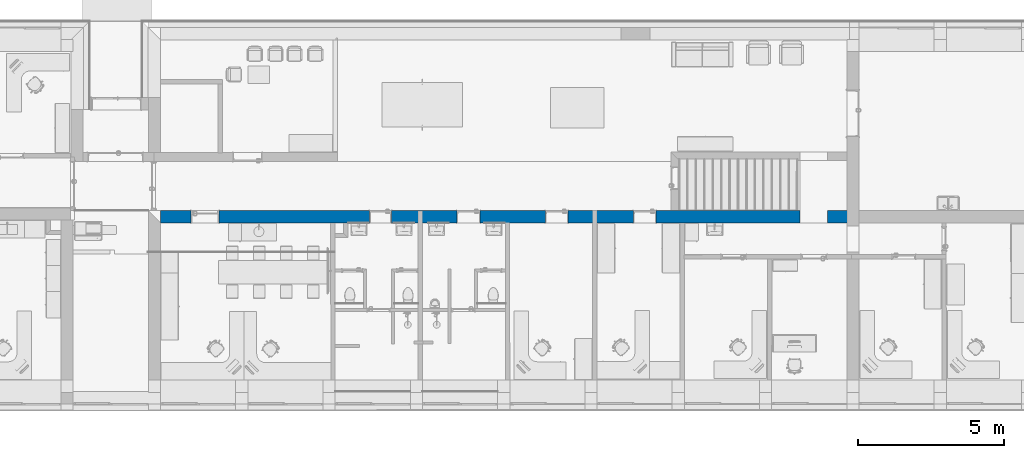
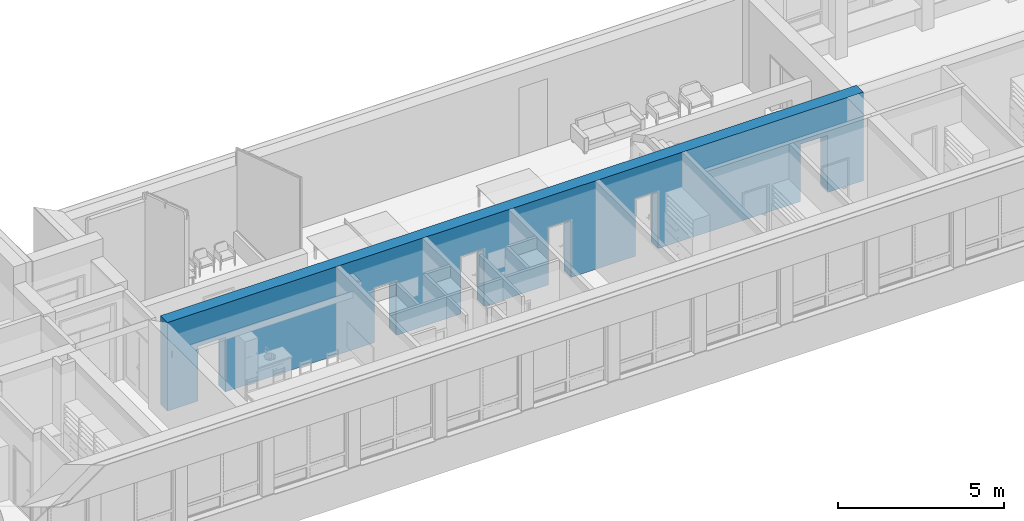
# One storey, part 44 of 194: 1 wall, 6 openings.
"""IFC2X3 building model written with IfcOpenShell, lengths in millimetres."""

from ifc_helpers import new_model, entity, si_unit, converted_unit, derived_unit, money_unit, direction, frame, origin_with_axes, origin_2d_with_axis, place, context, subcontext, project, spatial, polyline, rectangle, outline, extrude, boolean, clip, halfspace, faceted_brep, material, type_object, element, save


model = new_model("IFC2X3")

# Units and contexts
model_context = context("Model", 3, precision=1e-05, world=origin_with_axes(), true_north=direction((0.0, 1.0)))
body_context = subcontext(model_context, "Body", "Model", "MODEL_VIEW")
ifc_project = project(units=[si_unit("LENGTHUNIT", "METRE", prefix="MILLI"), si_unit("AREAUNIT", "SQUARE_METRE"), si_unit("VOLUMEUNIT", "CUBIC_METRE"), converted_unit("PLANEANGLEUNIT", "DEGREE", entity("IfcPlaneAngleMeasure", 0.0174532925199), si_unit("PLANEANGLEUNIT", "RADIAN"), dimensions=[0, 0, 0, 0, 0, 0, 0]), si_unit("SOLIDANGLEUNIT", "STERADIAN"), money_unit("EUR"), converted_unit("TIMEUNIT", "Year", entity("IfcTimeMeasure", 31556926.0), si_unit("TIMEUNIT", "SECOND"), dimensions=[0, 0, 1, 0, 0, 0, 0]), si_unit("MASSUNIT", "GRAM", prefix="KILO"), si_unit("THERMODYNAMICTEMPERATUREUNIT", "DEGREE_CELSIUS"), si_unit("LUMINOUSINTENSITYUNIT", "LUMEN"), si_unit("ENERGYUNIT", "JOULE", prefix="MEGA"), derived_unit("THERMALCONDUCTANCEUNIT", [(si_unit("POWERUNIT", "WATT"), 1), (si_unit("LENGTHUNIT", "METRE"), -1), (si_unit("THERMODYNAMICTEMPERATUREUNIT", "KELVIN"), -1)]), derived_unit("SPECIFICHEATCAPACITYUNIT", [(si_unit("ENERGYUNIT", "JOULE"), 1), (si_unit("MASSUNIT", "GRAM", prefix="KILO"), -1), (si_unit("THERMODYNAMICTEMPERATUREUNIT", "KELVIN"), -1)]), derived_unit("MASSDENSITYUNIT", [(si_unit("MASSUNIT", "GRAM", prefix="KILO"), 1), (si_unit("VOLUMEUNIT", "CUBIC_METRE"), -1)])], contexts=[model_context])

# Site, building, storey
site_placement = place(None, origin_with_axes())
site = spatial("IfcSite", under=ifc_project, at=site_placement, Name="Site", CompositionType="ELEMENT")
building_placement = place(site_placement, origin_with_axes())
building = spatial("IfcBuilding", under=site, at=building_placement, Name="Building", CompositionType="ELEMENT")
storey_placement = place(building_placement, frame((0.0, 0.0, 3000.0), z_axis=(0.0, 0.0, 1.0), x_axis=(1.0, 0.0, 0.0)))
storey = spatial("IfcBuildingStorey", under=building, at=storey_placement, Name="2 KORRUS", CompositionType="ELEMENT", Elevation=3000.0)

# Wall, openings
ifc_material = material(Name="Kivi -Ol.Olev Konstruktsioon")
wall_type = type_object("IfcWallType", Name="SW - 022", PredefinedType="NOTDEFINED")
wall_placement = place(storey_placement, frame((63737.3527847, 41003.0649281, 0.0), z_axis=(0.0, 0.0, 1.0), x_axis=(1.0, 0.0, 0.0)))
wall = element("IfcWall", 1, at=wall_placement, inside=storey, type_object=wall_type, material=ifc_material, Name="ol.olev ss 420", context=body_context, shape_type="CSG", body=[
    boolean("DIFFERENCE", clip(extrude(outline(polyline([(0.0, -420.0), (24571.8550942, -420.0), (24571.8550942, 0.0), (0.0, 0.0), (0.0, -420.0)])), origin_with_axes(), (0.0, 0.0, 1.0), 3250.0), halfspace(frame((-3.13135428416e-08, 1590.36571042, 4958.2948051), z_axis=(0.0, -0.305422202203, -0.952217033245), x_axis=(0.0, 0.952217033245, -0.305422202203)), True)), faceted_brep([(420.0, -420.0, 3250.0), (420.0, 0.0, 3250.0), (0.0, 0.0, 3250.0), (0.0, -420.0, 3250.0), (420.0, 0.0, 0.0), (420.0, -420.0, 0.0), (0.0, 0.0, 0.0), (0.0, -420.0, 0.0)], [[[0, 1, 2, 3]], [[4, 1, 0, 5]], [[1, 4, 6, 2]], [[2, 6, 7, 3]], [[5, 0, 3, 7]], [[4, 5, 7, 6]]])),
])
opening_1_placement = place(wall_placement, frame((1947.46331943, 0.0, 0.0), z_axis=(0.0, 0.0, 1.0), x_axis=(1.0, 0.0, 0.0)))
element("IfcOpeningElement", 2, at=opening_1_placement, cuts=wall, Name="Siseuks * Door 22", context=body_context, shape_type="SweptSolid", body=[
    extrude(rectangle(XDim=950.0, YDim=2000.0, at=origin_2d_with_axis()), frame((0.0, -420.0, 1000.0), z_axis=(0.0, -1.0, 0.0), x_axis=(1.0, 0.0, 0.0)), (0.0, 0.0, -1.0), 1260.0),
    extrude(rectangle(XDim=1024.0, YDim=2037.0, at=origin_2d_with_axis()), frame((0.0, -420.0, 1018.5), z_axis=(0.0, -1.0, 0.0), x_axis=(1.0, 0.0, 0.0)), (0.0, 0.0, 1.0), 420.0),
    extrude(rectangle(XDim=1024.0, YDim=2037.0, at=origin_2d_with_axis()), frame((0.0, 0.0, 1018.5), z_axis=(0.0, 1.0, 0.0), x_axis=(1.0, 0.0, 0.0)), (0.0, 0.0, 1.0), 420.0),
])
opening_2_placement = place(wall_placement, frame((7975.74189469, 0.0, 0.0), z_axis=(0.0, 0.0, 1.0), x_axis=(1.0, 0.0, 0.0)))
element("IfcOpeningElement", 3, at=opening_2_placement, cuts=wall, Name="Siseuks * Door 22", context=body_context, shape_type="SweptSolid", body=[
    extrude(rectangle(XDim=750.0, YDim=2000.0, at=origin_2d_with_axis()), frame((0.0, -420.0, 1000.0), z_axis=(0.0, -1.0, 0.0), x_axis=(-1.0, 0.0, 0.0)), (0.0, 0.0, -1.0), 1260.0),
    extrude(rectangle(XDim=824.0, YDim=2037.0, at=origin_2d_with_axis()), frame((0.0, -420.0, 1018.5), z_axis=(0.0, -1.0, 0.0), x_axis=(-1.0, 0.0, 0.0)), (0.0, 0.0, 1.0), 420.0),
    extrude(rectangle(XDim=824.0, YDim=2037.0, at=origin_2d_with_axis()), frame((0.0, 0.0, 1018.5), z_axis=(0.0, 1.0, 0.0), x_axis=(-1.0, 0.0, 0.0)), (0.0, 0.0, 1.0), 420.0),
])
opening_3_placement = place(wall_placement, frame((11001.0597613, 0.0, 0.0), z_axis=(0.0, 0.0, 1.0), x_axis=(1.0, 0.0, 0.0)))
element("IfcOpeningElement", 4, at=opening_3_placement, cuts=wall, Name="Siseuks * Door 22", context=body_context, shape_type="SweptSolid", body=[
    extrude(rectangle(XDim=800.0, YDim=2100.0, at=origin_2d_with_axis()), frame((0.0, -420.0, 1050.0), z_axis=(0.0, -1.0, 0.0), x_axis=(-1.0, 0.0, 0.0)), (0.0, 0.0, -1.0), 1260.0),
    extrude(rectangle(XDim=874.0, YDim=2137.0, at=origin_2d_with_axis()), frame((0.0, -420.0, 1068.5), z_axis=(0.0, -1.0, 0.0), x_axis=(-1.0, 0.0, 0.0)), (0.0, 0.0, 1.0), 420.0),
    extrude(rectangle(XDim=874.0, YDim=2137.0, at=origin_2d_with_axis()), frame((0.0, 0.0, 1068.5), z_axis=(0.0, 1.0, 0.0), x_axis=(-1.0, 0.0, 0.0)), (0.0, 0.0, 1.0), 420.0),
])
opening_4_placement = place(wall_placement, frame((14031.7882103, 0.0, 0.0), z_axis=(0.0, 0.0, 1.0), x_axis=(1.0, 0.0, 0.0)))
element("IfcOpeningElement", 5, at=opening_4_placement, cuts=wall, Name="Siseuks * Door 22", context=body_context, shape_type="SweptSolid", body=[
    extrude(rectangle(XDim=780.0, YDim=2100.0, at=origin_2d_with_axis()), frame((0.0, -420.0, 1050.0), z_axis=(0.0, -1.0, 0.0), x_axis=(-1.0, 0.0, 0.0)), (0.0, 0.0, -1.0), 1260.0),
    extrude(rectangle(XDim=854.0, YDim=2137.0, at=origin_2d_with_axis()), frame((0.0, -420.0, 1068.5), z_axis=(0.0, -1.0, 0.0), x_axis=(-1.0, 0.0, 0.0)), (0.0, 0.0, 1.0), 420.0),
    extrude(rectangle(XDim=854.0, YDim=2137.0, at=origin_2d_with_axis()), frame((0.0, 0.0, 1068.5), z_axis=(0.0, 1.0, 0.0), x_axis=(-1.0, 0.0, 0.0)), (0.0, 0.0, 1.0), 420.0),
])
opening_5_placement = place(wall_placement, frame((17055.4018806, 0.0, 0.0), z_axis=(0.0, 0.0, 1.0), x_axis=(1.0, 0.0, 0.0)))
element("IfcOpeningElement", 6, at=opening_5_placement, cuts=wall, Name="Siseuks * Door 22", context=body_context, shape_type="SweptSolid", body=[
    extrude(rectangle(XDim=780.0, YDim=2100.0, at=origin_2d_with_axis()), frame((0.0, -420.0, 1050.0), z_axis=(0.0, -1.0, 0.0), x_axis=(-1.0, 0.0, 0.0)), (0.0, 0.0, -1.0), 1260.0),
    extrude(rectangle(XDim=854.0, YDim=2137.0, at=origin_2d_with_axis()), frame((0.0, -420.0, 1068.5), z_axis=(0.0, -1.0, 0.0), x_axis=(-1.0, 0.0, 0.0)), (0.0, 0.0, 1.0), 420.0),
    extrude(rectangle(XDim=854.0, YDim=2137.0, at=origin_2d_with_axis()), frame((0.0, 0.0, 1068.5), z_axis=(0.0, 1.0, 0.0), x_axis=(-1.0, 0.0, 0.0)), (0.0, 0.0, 1.0), 420.0),
])
opening_6_placement = place(wall_placement, frame((22858.754669, 0.0, 0.0), z_axis=(0.0, 0.0, 1.0), x_axis=(1.0, 0.0, 0.0)))
element("IfcOpeningElement", 7, at=opening_6_placement, cuts=wall, Name="Background;  Objekti nimi: Simple Door Opening", context=body_context, shape_type="SweptSolid", body=[
    extrude(rectangle(XDim=940.0, YDim=2100.0, at=origin_2d_with_axis()), frame((0.0, 0.0, 1050.0), z_axis=(0.0, -1.0, 0.0), x_axis=(1.0, 0.0, 0.0)), (0.0, 0.0, -1.0), 420.0),
    extrude(rectangle(XDim=940.0, YDim=2100.0, at=origin_2d_with_axis()), frame((0.0, 0.0, 1050.0), z_axis=(0.0, 1.0, 0.0), x_axis=(1.0, 0.0, 0.0)), (0.0, 0.0, -1.0), 420.0),
])

save(model, "model.ifc")
